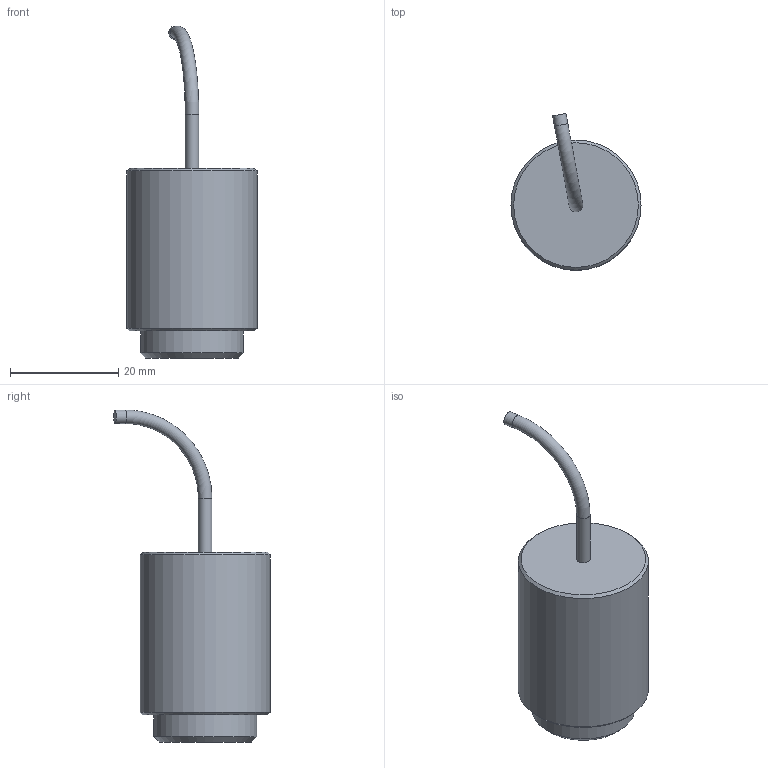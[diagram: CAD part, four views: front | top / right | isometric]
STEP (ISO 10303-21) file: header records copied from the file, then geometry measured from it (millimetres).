
FILE_DESCRIPTION(/* description */ (''),/* implementation_level */ '2;1');
FILE_NAME(/* name */ 'F:\daten\PRODUKTE\TELEMETR\A\Mechanik\CAD\4B\4B\kunde\Antenne_4B_kunde.stp',/* time_stamp */ '2019-09-04T12:53:34+02:00',/* author */ ('dschaefer'),/* organization */ (''),/* preprocessor_version */ 'ST-DEVELOPER v16.5',/* originating_system */ 'Autodesk Inventor 2017',/* authorisation */ '');
FILE_SCHEMA (('AUTOMOTIVE_DESIGN { 1 0 10303 214 3 1 1 }'));
Length unit declared in the file: millimetre
Products named in the file (1): Antenne_4B_kunde
Bounding box: 24 x 28.85 x 61.25 mm (x, y, z)
Volume: 15116 mm3; surface area: 3662.7 mm2
Topology: 1 solids, 1 shells, 12 faces, 19 edges, 11 vertices
Faces by surface type: cylinder 4, plane 4, cone 3, torus 1
Full cylindrical faces by diameter (mm): 2.5 x2, 19 x1, 24 x1
Entity records: 291 total; most frequent: DIRECTION 48, CARTESIAN_POINT 35, AXIS2_PLACEMENT_3D 24, EDGE_LOOP 22, ORIENTED_EDGE 22, STYLED_ITEM 13, FACE_OUTER_BOUND 12, ADVANCED_FACE 12
